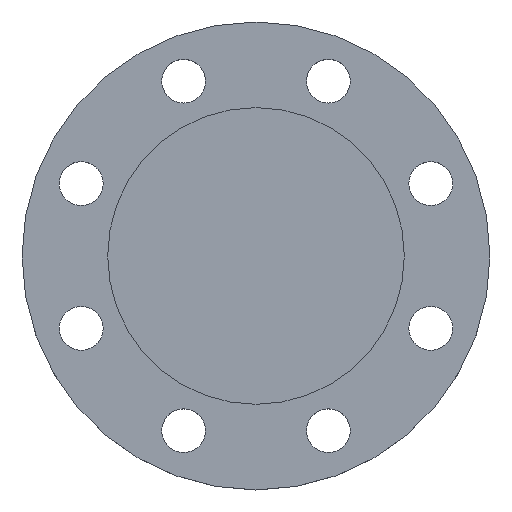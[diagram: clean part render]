
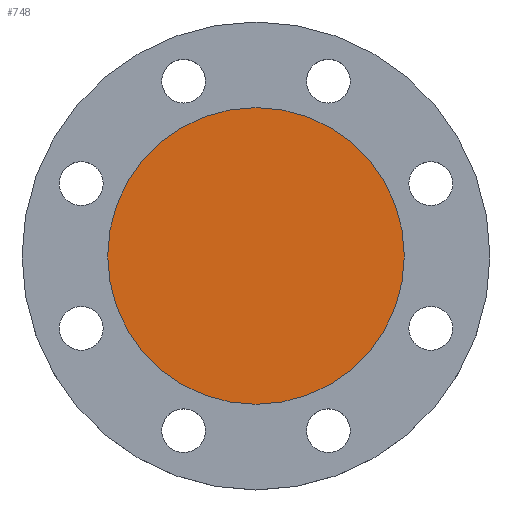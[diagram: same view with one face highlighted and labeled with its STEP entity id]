
A CAD part, top view. The second image highlights one B-rep face of the part: STEP entity #748.
In plain terms, the highlighted planar face has unit normal (0, 0, 1).
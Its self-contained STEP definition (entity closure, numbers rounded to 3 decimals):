
#39 = AXIS2_PLACEMENT_3D ( 'NONE', #835, #194, #501 ) ;
#60 = ORIENTED_EDGE ( 'NONE', *, *, #694, .F. ) ;
#66 = VERTEX_POINT ( 'NONE', #682 ) ;
#104 = CARTESIAN_POINT ( 'NONE',  ( 0., 0., 0. ) ) ;
#119 = VERTEX_POINT ( 'NONE', #885 ) ;
#194 = DIRECTION ( 'NONE',  ( 0., 0., 1. ) ) ;
#199 = DIRECTION ( 'NONE',  ( -1., 0., 0. ) ) ;
#267 = FACE_OUTER_BOUND ( 'NONE', #711, .T. ) ;
#330 = CIRCLE ( 'NONE', #733, 74.5 ) ;
#396 = DIRECTION ( 'NONE',  ( 0., 0., -1. ) ) ;
#435 = ORIENTED_EDGE ( 'NONE', *, *, #767, .F. ) ;
#453 = AXIS2_PLACEMENT_3D ( 'NONE', #577, #839, #199 ) ;
#466 = CIRCLE ( 'NONE', #453, 74.5 ) ;
#501 = DIRECTION ( 'NONE',  ( 1., 0., 0. ) ) ;
#573 = PLANE ( 'NONE',  #39 ) ;
#577 = CARTESIAN_POINT ( 'NONE',  ( 0., 0., 0. ) ) ;
#682 = CARTESIAN_POINT ( 'NONE',  ( -74.5, 0., 0. ) ) ;
#683 = DIRECTION ( 'NONE',  ( -1., 0., 0. ) ) ;
#694 = EDGE_CURVE ( 'NONE', #66, #119, #330, .T. ) ;
#711 = EDGE_LOOP ( 'NONE', ( #60, #435 ) ) ;
#733 = AXIS2_PLACEMENT_3D ( 'NONE', #104, #396, #683 ) ;
#748 = ADVANCED_FACE ( 'NONE', ( #267 ), #573, .T. ) ;
#767 = EDGE_CURVE ( 'NONE', #119, #66, #466, .T. ) ;
#835 = CARTESIAN_POINT ( 'NONE',  ( 0., 0., 0. ) ) ;
#839 = DIRECTION ( 'NONE',  ( 0., 0., -1. ) ) ;
#885 = CARTESIAN_POINT ( 'NONE',  ( 74.5, 0., 0. ) ) ;
